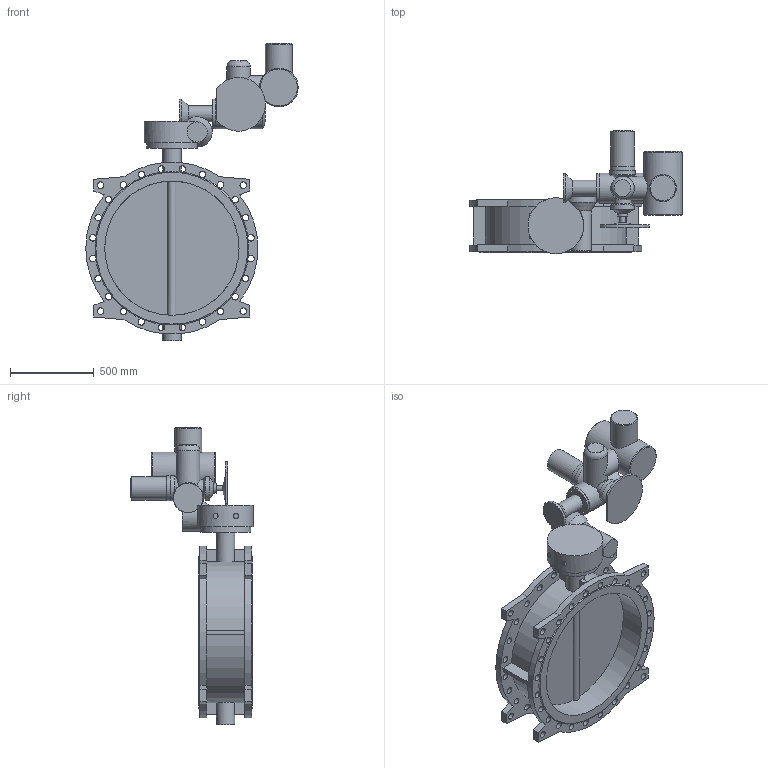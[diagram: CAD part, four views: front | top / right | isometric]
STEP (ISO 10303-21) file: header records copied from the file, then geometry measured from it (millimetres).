
FILE_DESCRIPTION(('STEP AP203'), '1');
FILE_NAME('Çàòâîð 021F.Y DN800 +ðåäóêòîð+ÌÒ903.À30-34 ñ ÁÓ', '', ('UNSPECIFIED'), ('UNSPECIFIED'), 'ASCON STEP Converter 1.6', 'ASCON Math Kernel', '');
FILE_SCHEMA(('CONFIG_CONTROL_DESIGN'));
Length unit declared in the file: millimetre
Bounding box: 1264.5 x 732.73 x 1769 mm (x, y, z)
Volume: 110198527.4 mm3; surface area: 6008706.9 mm2
Topology: 1 solids, 1 shells, 239 faces, 726 edges, 479 vertices
Faces by surface type: cylinder 124, plane 99, cone 15, torus 1
Full cylindrical faces by diameter (mm): 14 x12, 18 x12, 30 x2, 32 x1, 39 x56, 60 x1, 95 x1, 100 x1, 110 x2, 120 x1, 140 x4, 147 x1, 151 x1, 160 x1, 175 x1, 180 x2, 230 x1, 300 x1, 800 x2
Entity records: 16422 total; most frequent: CARTESIAN_POINT 8204, DIRECTION 1254, ORIENTED_EDGE 1218, EDGE_CURVE 609, AXIS2_PLACEMENT_3D 549, VERTEX_POINT 479, EDGE_LOOP 460, CIRCLE 309
